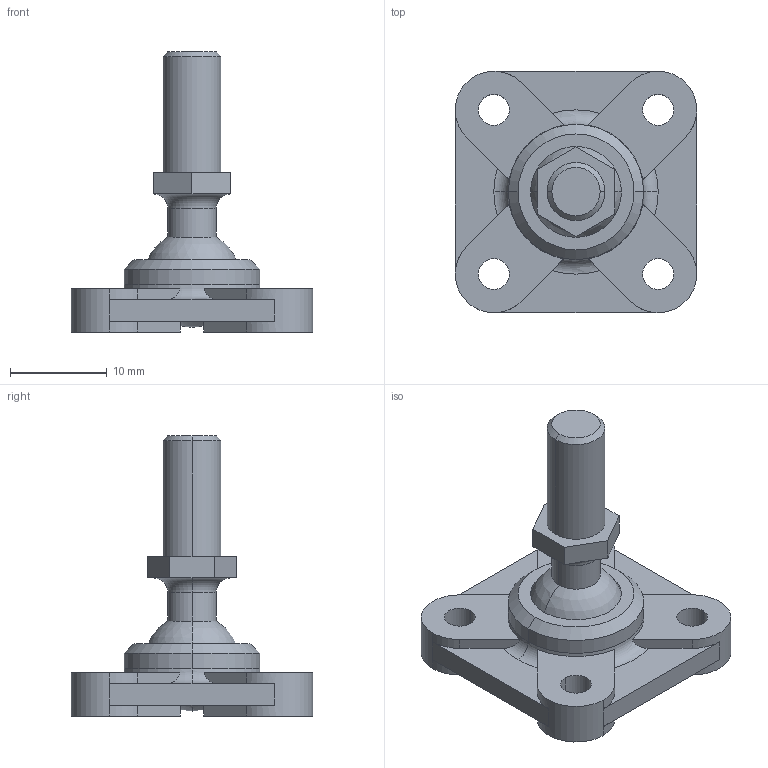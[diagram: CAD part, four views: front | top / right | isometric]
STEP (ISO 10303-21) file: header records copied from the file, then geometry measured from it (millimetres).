
FILE_DESCRIPTION(('STEP AP214'),'1');
FILE_NAME('cctmp_692EAB3D-C700-45E7-BF62-83FCBAF16171_2026_07_09_12_21_05_0030_186296..stp','2026-07-09T10:21:05',('igus GmbH'),('CADClick - www.CADClick.com'),'Spatial InterOp 3D',' ','unknown authorization');
FILE_SCHEMA(('AUTOMOTIVE_DESIGN'));
Length unit declared in the file: millimetre
Products named in the file (2): 2026_07_09_12_21_05_0014; 2026_07_09_12_21_05_0030
Bounding box: 25 x 25 x 29 mm (x, y, z)
Volume: 2986.7 mm3; surface area: 2681.2 mm2
Topology: 2 solids, 2 shells, 95 faces, 241 edges, 148 vertices
Faces by surface type: plane 51, cylinder 30, cone 6, torus 4, sphere 4
Entity records: 3811 total; most frequent: CARTESIAN_POINT 636, DIRECTION 532, ORIENTED_EDGE 478, EDGE_CURVE 239, AXIS2_PLACEMENT_3D 204, VERTEX_POINT 148, LINE 124, VECTOR 124
